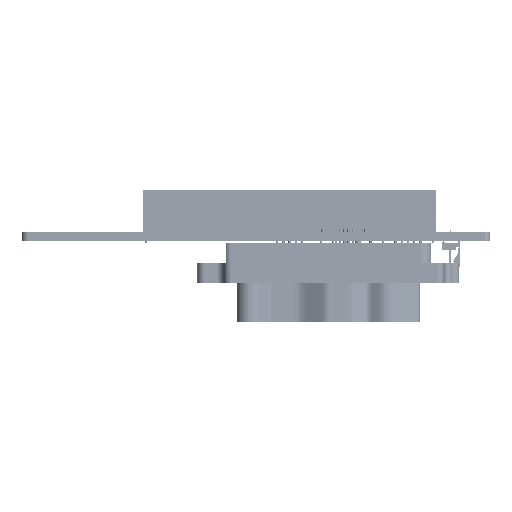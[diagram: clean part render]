
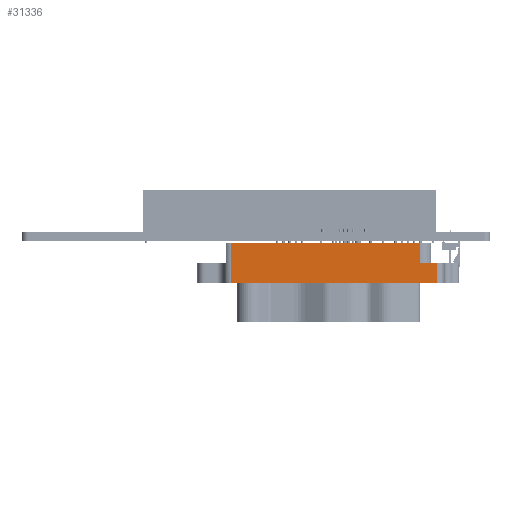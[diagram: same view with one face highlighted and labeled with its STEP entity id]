
A CAD part, left-side view. The second image highlights one B-rep face of the part: STEP entity #31336.
In plain terms, the highlighted planar face has unit normal (-1, 0, 0).
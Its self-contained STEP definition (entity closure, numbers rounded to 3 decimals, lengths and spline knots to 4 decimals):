
#27275=DIRECTION('',(0.,1.,0.));
#27276=VECTOR('',#27275,2.387);
#27277=CARTESIAN_POINT('',(-8.061,-1.647,-0.142));
#27278=LINE('',#27277,#27276);
#27490=DIRECTION('',(0.,1.,0.));
#27491=VECTOR('',#27490,2.603);
#27492=CARTESIAN_POINT('',(-8.061,-1.863,-0.642));
#27493=LINE('',#27492,#27491);
#28481=DIRECTION('',(0.,1.,0.));
#28482=VECTOR('',#28481,0.216);
#28483=CARTESIAN_POINT('',(-8.061,-1.863,-0.392));
#28484=LINE('',#28483,#28482);
#28554=DIRECTION('',(0.,0.,1.));
#28555=VECTOR('',#28554,0.25);
#28556=CARTESIAN_POINT('',(-8.061,-1.647,-0.392));
#28557=LINE('',#28556,#28555);
#28558=DIRECTION('',(0.,0.,1.));
#28559=VECTOR('',#28558,0.25);
#28560=CARTESIAN_POINT('',(-8.061,-1.863,-0.642));
#28561=LINE('',#28560,#28559);
#28562=DIRECTION('',(0.,0.,-1.));
#28563=VECTOR('',#28562,0.5);
#28564=CARTESIAN_POINT('',(-8.061,0.74,-0.142));
#28565=LINE('',#28564,#28563);
#29230=CARTESIAN_POINT('',(-8.061,0.74,-0.642));
#29232=VERTEX_POINT('',#29230);
#29234=CARTESIAN_POINT('',(-8.061,0.74,-0.142));
#29235=VERTEX_POINT('',#29234);
#29237=CARTESIAN_POINT('',(-8.061,-1.863,-0.642));
#29239=VERTEX_POINT('',#29237);
#29462=CARTESIAN_POINT('',(-8.061,-1.863,-0.392));
#29463=VERTEX_POINT('',#29462);
#29478=CARTESIAN_POINT('',(-8.061,-1.647,-0.142));
#29480=VERTEX_POINT('',#29478);
#29484=CARTESIAN_POINT('',(-8.061,-1.647,-0.392));
#29485=VERTEX_POINT('',#29484);
#31321=CARTESIAN_POINT('',(-8.061,-2.145,-0.142));
#31322=DIRECTION('',(-1.,0.,0.));
#31323=DIRECTION('',(0.,1.,0.));
#31324=AXIS2_PLACEMENT_3D('',#31321,#31322,#31323);
#31325=PLANE('',#31324);
#31326=ORIENTED_EDGE('',*,*,#31316,.F.);
#31327=ORIENTED_EDGE('',*,*,#31187,.F.);
#31329=ORIENTED_EDGE('',*,*,#31328,.F.);
#31330=ORIENTED_EDGE('',*,*,#29691,.T.);
#31332=ORIENTED_EDGE('',*,*,#31331,.F.);
#31333=ORIENTED_EDGE('',*,*,#29501,.F.);
#31334=EDGE_LOOP('',(#31326,#31327,#31329,#31330,#31332,#31333));
#31335=FACE_OUTER_BOUND('',#31334,.F.);
#31336=ADVANCED_FACE('',(#31335),#31325,.T.);
#29501=EDGE_CURVE('',#29480,#29235,#27278,.T.);
#29691=EDGE_CURVE('',#29239,#29232,#27493,.T.);
#31187=EDGE_CURVE('',#29463,#29485,#28484,.T.);
#31316=EDGE_CURVE('',#29485,#29480,#28557,.T.);
#31328=EDGE_CURVE('',#29239,#29463,#28561,.T.);
#31331=EDGE_CURVE('',#29235,#29232,#28565,.T.);
